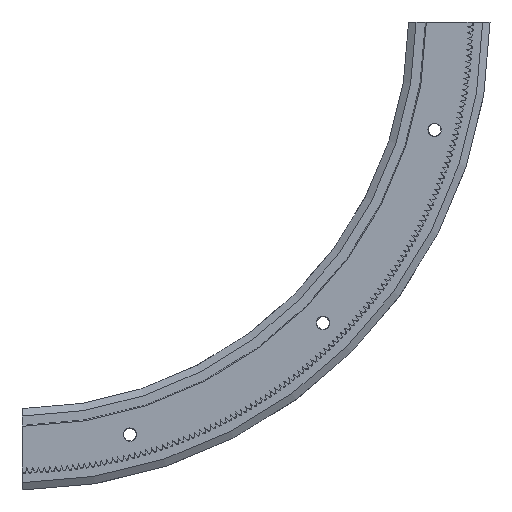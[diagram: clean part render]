
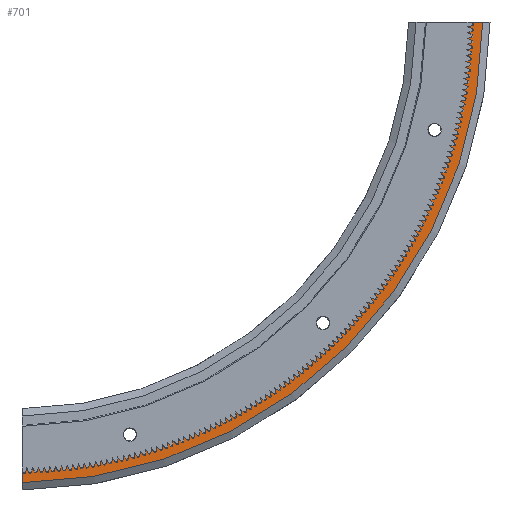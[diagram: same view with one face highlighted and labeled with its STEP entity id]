
A CAD part, front view. The second image highlights one B-rep face of the part: STEP entity #701.
In plain terms, the highlighted planar face has unit normal (0, -1, 0).
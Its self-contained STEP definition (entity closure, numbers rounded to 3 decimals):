
#701 = ADVANCED_FACE( '', ( #2091 ), #2092, .T. );
#2091 = FACE_OUTER_BOUND( '', #3629, .T. );
#2092 = PLANE( '', #3630 );
#3629 = EDGE_LOOP( '', ( #9284, #9285, #9286, #9287 ) );
#3630 = AXIS2_PLACEMENT_3D( '', #9288, #9289, #9290 );
#9284 = ORIENTED_EDGE( '', *, *, #12204, .T. );
#9285 = ORIENTED_EDGE( '', *, *, #12205, .T. );
#9286 = ORIENTED_EDGE( '', *, *, #12202, .F. );
#9287 = ORIENTED_EDGE( '', *, *, #10233, .T. );
#9288 = CARTESIAN_POINT( '', ( 0., 9.5, -244.4 ) );
#9289 = DIRECTION( '', ( 0., -1., 0. ) );
#9290 = DIRECTION( '', ( 0., 0., -1. ) );
#10233 = EDGE_CURVE( '', #12264, #12262, #12265, .T. );
#12202 = EDGE_CURVE( '', #12264, #15461, #15462, .T. );
#12204 = EDGE_CURVE( '', #12262, #15464, #15465, .T. );
#12205 = EDGE_CURVE( '', #15464, #15461, #15466, .T. );
#12262 = VERTEX_POINT( '', #15576 );
#12264 = VERTEX_POINT( '', #15581 );
#12265 = LINE( '', #15582, #15583 );
#15461 = VERTEX_POINT( '', #20622 );
#15462 = CIRCLE( '', #20623, 244.4 );
#15464 = VERTEX_POINT( '', #20626 );
#15465 = CIRCLE( '', #20627, 252.086 );
#15466 = LINE( '', #20628, #20629 );
#15576 = CARTESIAN_POINT( '', ( 2., 9.5, -252.078 ) );
#15581 = CARTESIAN_POINT( '', ( 2., 9.5, -244.392 ) );
#15582 = CARTESIAN_POINT( '', ( 2., 9.5, -244.4 ) );
#15583 = VECTOR( '', #20687, 1000. );
#20622 = CARTESIAN_POINT( '', ( 244.392, 9.5, -2. ) );
#20623 = AXIS2_PLACEMENT_3D( '', #23651, #23652, #23653 );
#20626 = CARTESIAN_POINT( '', ( 252.078, 9.5, -2. ) );
#20627 = AXIS2_PLACEMENT_3D( '', #23655, #23656, #23657 );
#20628 = CARTESIAN_POINT( '', ( 0., 9.5, -2. ) );
#20629 = VECTOR( '', #23658, 1000. );
#20687 = DIRECTION( '', ( 0., 0., -1. ) );
#23651 = CARTESIAN_POINT( '', ( 0., 9.5, 0. ) );
#23652 = DIRECTION( '', ( 0., -1., 0. ) );
#23653 = DIRECTION( '', ( 0., 0., -1. ) );
#23655 = CARTESIAN_POINT( '', ( 0., 9.5, 0. ) );
#23656 = DIRECTION( '', ( 0., -1., 0. ) );
#23657 = DIRECTION( '', ( 0., 0., -1. ) );
#23658 = DIRECTION( '', ( -1., 0., 0. ) );
